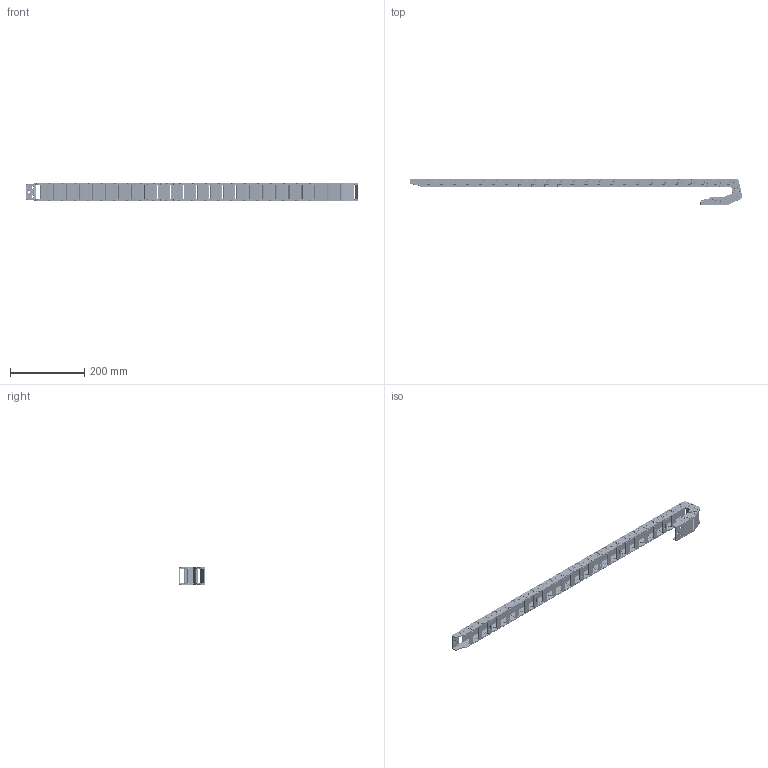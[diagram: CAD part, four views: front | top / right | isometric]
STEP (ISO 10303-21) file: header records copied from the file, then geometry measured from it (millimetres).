
FILE_DESCRIPTION(/* description */ (''),/* implementation_level */ '2;1');
FILE_NAME(/* name */ 'BF18x37R28.prt.stp',/* time_stamp */ '2022-11-17T15:19:59+08:00',/* author */ (''),/* organization */ (''),/* preprocessor_version */ 'ST-DEVELOPER v16',/* originating_system */ 'SIEMENS PLM Software NX 10.0',/* authorisation */ '');
FILE_SCHEMA (('CONFIG_CONTROL_DESIGN'));
Products named in the file (1): BF18x37R28
Bounding box: 897.08 x 72.49 x 48.7 mm (x, y, z)
Volume: 323154.9 mm3; surface area: 302903.1 mm2
Topology: 56 solids, 56 shells, 14844 faces, 39774 edges, 25905 vertices
Faces by surface type: plane 7611, cylinder 2880, bspline 2789, torus 834, extrusion 702, cone 24, sphere 4
Full cylindrical faces by diameter (mm): 4 x54
Entity records: 605467 total; most frequent: CARTESIAN_POINT 252401, ORIENTED_EDGE 78948, DIRECTION 62929, EDGE_CURVE 39474, VERTEX_POINT 25878, VECTOR 25471, LINE 24769, AXIS2_PLACEMENT_3D 18729
